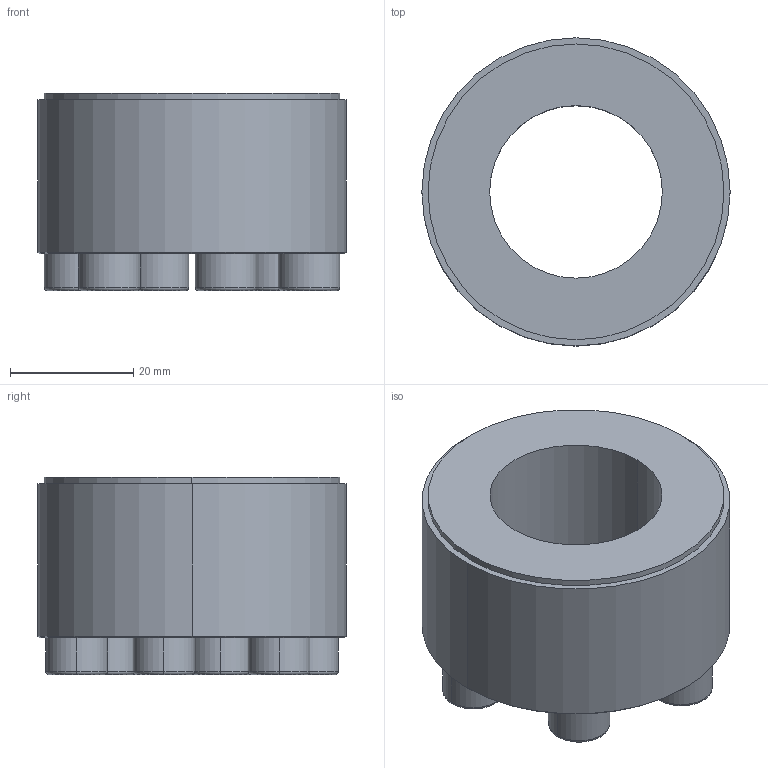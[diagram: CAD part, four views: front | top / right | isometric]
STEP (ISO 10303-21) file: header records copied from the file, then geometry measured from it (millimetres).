
FILE_DESCRIPTION (( 'STEP AP203' ), '1' );
FILE_NAME ('PL-B 28-50.STEP', '2021-10-22T07:46:53', ( '' ), ( '' ), 'SwSTEP 2.0', 'SolidWorks 2018', '' );
FILE_SCHEMA (( 'CONFIG_CONTROL_DESIGN' ));
Length unit declared in the file: millimetre
Products named in the file (1): PL-B 28-50
Bounding box: 50 x 50 x 32 mm (x, y, z)
Volume: 37310.3 mm3; surface area: 10433.3 mm2
Topology: 1 solids, 1 shells, 85 faces, 194 edges, 124 vertices
Faces by surface type: plane 51, cylinder 18, torus 12, cone 4
Entity records: 2465 total; most frequent: DIRECTION 430, CARTESIAN_POINT 404, ORIENTED_EDGE 388, EDGE_CURVE 194, AXIS2_PLACEMENT_3D 150, VECTOR 130, LINE 130, VERTEX_POINT 124
